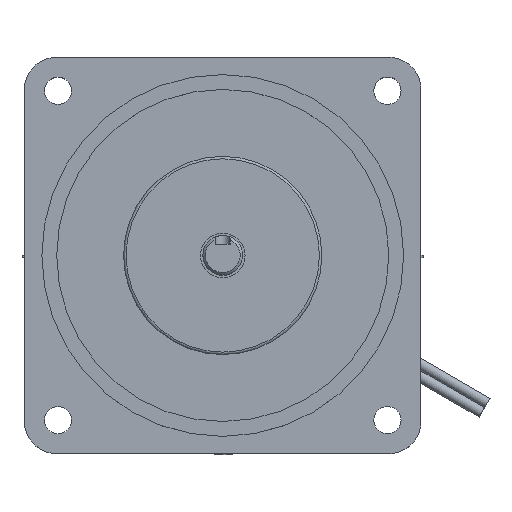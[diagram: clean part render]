
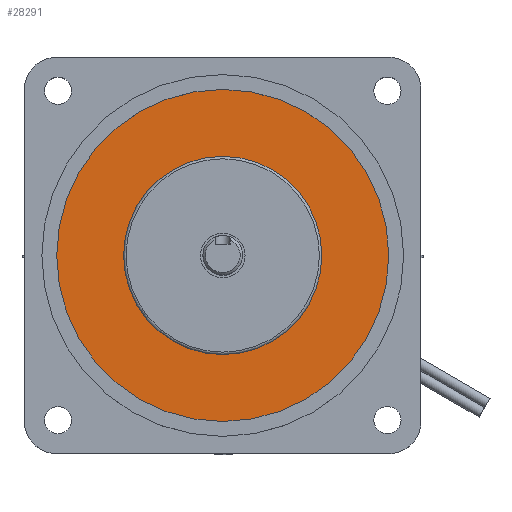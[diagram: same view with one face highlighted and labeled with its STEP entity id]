
A CAD part, top view. The second image highlights one B-rep face of the part: STEP entity #28291.
In plain terms, the highlighted planar face has unit normal (0, 0, 1).
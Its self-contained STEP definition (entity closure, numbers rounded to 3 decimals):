
#27966=CARTESIAN_POINT('',(20.0,0.,5.5));
#27967=VERTEX_POINT('',#27966);
#27968=CARTESIAN_POINT('',(0.0,0.0,5.5));
#27969=DIRECTION('',(0.0,0.0,1.0));
#27970=DIRECTION('',(-1.0,0.0,0.0));
#27971=AXIS2_PLACEMENT_3D('',#27968,#27969,#27970);
#27972=CIRCLE('',#27971,20.0);
#27973=EDGE_CURVE('',#27967,#27967,#27972,.T.);
#28257=CARTESIAN_POINT('',(33.5,0.,5.5));
#28258=VERTEX_POINT('',#28257);
#28259=CARTESIAN_POINT('',(0.0,0.0,5.5));
#28260=DIRECTION('',(0.0,0.0,1.0));
#28261=DIRECTION('',(-1.0,0.0,0.0));
#28262=AXIS2_PLACEMENT_3D('',#28259,#28260,#28261);
#28263=CIRCLE('',#28262,33.5);
#28264=EDGE_CURVE('',#28258,#28258,#28263,.T.);
#28280=CARTESIAN_POINT('',(0.0,0.0,5.5));
#28281=DIRECTION('',(0.0,0.0,-1.0));
#28282=DIRECTION('',(-1.0,0.0,0.0));
#28283=AXIS2_PLACEMENT_3D('',#28280,#28281,#28282);
#28284=PLANE('',#28283);
#28285=ORIENTED_EDGE('',*,*,#28264,.T.);
#28286=EDGE_LOOP('',(#28285));
#28287=FACE_OUTER_BOUND('',#28286,.T.);
#28288=ORIENTED_EDGE('',*,*,#27973,.F.);
#28289=EDGE_LOOP('',(#28288));
#28290=FACE_BOUND('',#28289,.T.);
#28291=ADVANCED_FACE('',(#28287,#28290),#28284,.F.);
